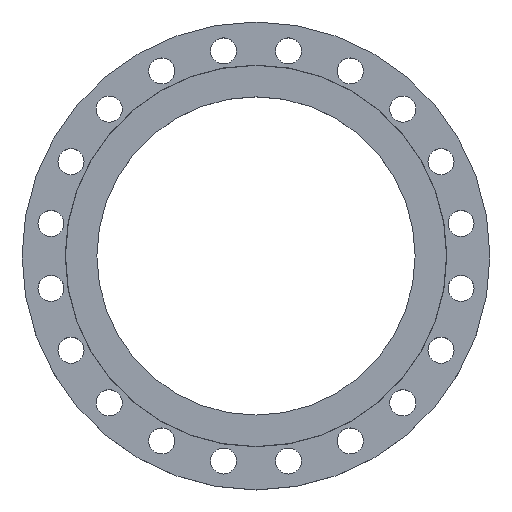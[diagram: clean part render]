
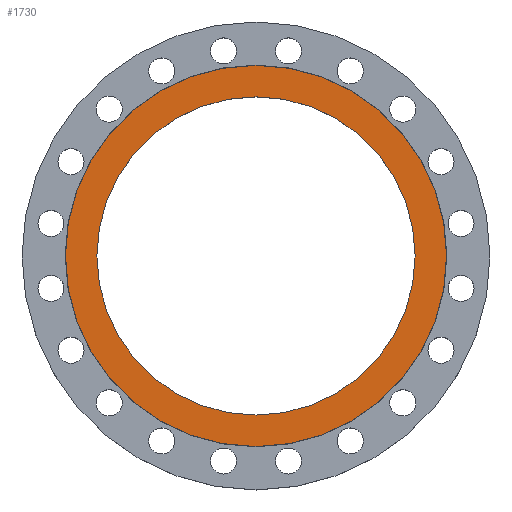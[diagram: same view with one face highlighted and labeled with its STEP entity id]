
A CAD part, top view. The second image highlights one B-rep face of the part: STEP entity #1730.
In plain terms, the highlighted planar face has unit normal (0, 0, 1).
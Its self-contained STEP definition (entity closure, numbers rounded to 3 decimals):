
#40 = FACE_OUTER_BOUND ( 'NONE', #343, .T. ) ;
#96 = CARTESIAN_POINT ( 'NONE',  ( 307.5, 0., 0. ) ) ;
#98 = CARTESIAN_POINT ( 'NONE',  ( -256.75, 0., 0. ) ) ;
#170 = DIRECTION ( 'NONE',  ( 0., 0., -1. ) ) ;
#180 = AXIS2_PLACEMENT_3D ( 'NONE', #1390, #1722, #721 ) ;
#185 = CARTESIAN_POINT ( 'NONE',  ( 0., 0., 0. ) ) ;
#305 = DIRECTION ( 'NONE',  ( -1., 0., 0. ) ) ;
#334 = VERTEX_POINT ( 'NONE', #96 ) ;
#343 = EDGE_LOOP ( 'NONE', ( #1098, #1099 ) ) ;
#419 = CARTESIAN_POINT ( 'NONE',  ( 0., 0., 0. ) ) ;
#435 = EDGE_LOOP ( 'NONE', ( #1091, #1094 ) ) ;
#484 = CARTESIAN_POINT ( 'NONE',  ( -307.5, 0., 0. ) ) ;
#494 = CARTESIAN_POINT ( 'NONE',  ( 256.75, 0., 0. ) ) ;
#524 = VERTEX_POINT ( 'NONE', #484 ) ;
#529 = VERTEX_POINT ( 'NONE', #494 ) ;
#721 = DIRECTION ( 'NONE',  ( 1., 0., 0. ) ) ;
#838 = EDGE_CURVE ( 'NONE', #334, #524, #961, .T. ) ;
#846 = AXIS2_PLACEMENT_3D ( 'NONE', #1208, #1588, #305 ) ;
#856 = EDGE_CURVE ( 'NONE', #524, #334, #1261, .T. ) ;
#869 = CIRCLE ( 'NONE', #846, 256.75 ) ;
#902 = PLANE ( 'NONE',  #180 ) ;
#961 = CIRCLE ( 'NONE', #1186, 307.5 ) ;
#965 = DIRECTION ( 'NONE',  ( -1., 0., 0. ) ) ;
#979 = DIRECTION ( 'NONE',  ( 0., 0., -1. ) ) ;
#1060 = EDGE_CURVE ( 'NONE', #529, #1136, #869, .T. ) ;
#1080 = CIRCLE ( 'NONE', #1085, 256.75 ) ;
#1085 = AXIS2_PLACEMENT_3D ( 'NONE', #419, #1111, #1556 ) ;
#1091 = ORIENTED_EDGE ( 'NONE', *, *, #1633, .T. ) ;
#1094 = ORIENTED_EDGE ( 'NONE', *, *, #1060, .T. ) ;
#1098 = ORIENTED_EDGE ( 'NONE', *, *, #856, .F. ) ;
#1099 = ORIENTED_EDGE ( 'NONE', *, *, #838, .F. ) ;
#1111 = DIRECTION ( 'NONE',  ( 0., 0., -1. ) ) ;
#1136 = VERTEX_POINT ( 'NONE', #98 ) ;
#1186 = AXIS2_PLACEMENT_3D ( 'NONE', #1550, #170, #965 ) ;
#1208 = CARTESIAN_POINT ( 'NONE',  ( 0., 0., 0. ) ) ;
#1261 = CIRCLE ( 'NONE', #1280, 307.5 ) ;
#1280 = AXIS2_PLACEMENT_3D ( 'NONE', #185, #979, #1439 ) ;
#1390 = CARTESIAN_POINT ( 'NONE',  ( 0., 0., 0. ) ) ;
#1439 = DIRECTION ( 'NONE',  ( -1., 0., 0. ) ) ;
#1509 = FACE_BOUND ( 'NONE', #435, .T. ) ;
#1550 = CARTESIAN_POINT ( 'NONE',  ( 0., 0., 0. ) ) ;
#1556 = DIRECTION ( 'NONE',  ( -1., 0., 0. ) ) ;
#1588 = DIRECTION ( 'NONE',  ( 0., 0., -1. ) ) ;
#1633 = EDGE_CURVE ( 'NONE', #1136, #529, #1080, .T. ) ;
#1722 = DIRECTION ( 'NONE',  ( 0., 0., 1. ) ) ;
#1730 = ADVANCED_FACE ( 'NONE', ( #1509, #40 ), #902, .T. ) ;
